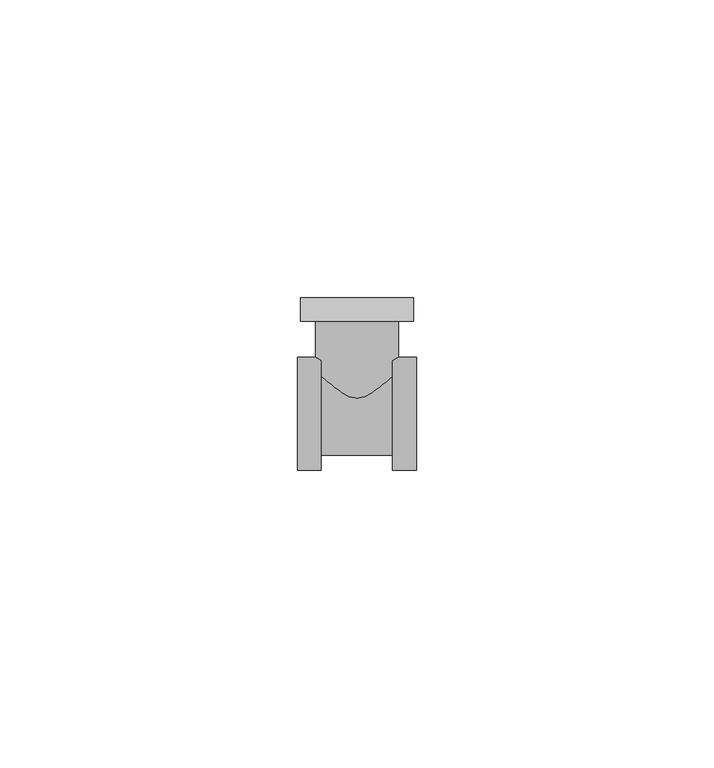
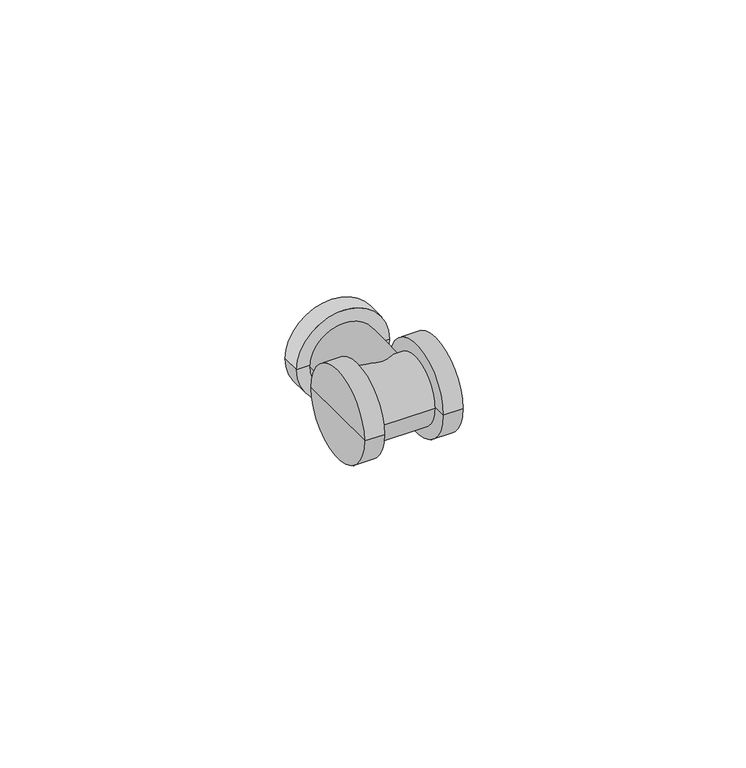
"""IFC4 building model written with IfcOpenShell, lengths in millimetres: pipe fitting geometry, KAN-therm Push trójnik mosiężny : KAN-therm Push trójnik mosiężny."""

from ifc_helpers import new_model, si_unit, frame, origin, place, context, project, spatial, circle_curve, source, transform, mapped, element, save
from ifc_brep_helpers import plane_surface, cylinder_surface, advanced_brep


def pipe_fitting_f02bf57f(model_context):
    return source(origin(), model_context, "Body", "AdvancedBrep", [
        advanced_brep(
        [(0.0, 15.5, 0.0), (-9.5, 15.5, 0.0), (9.5, 15.5, 0.0), (9.5, 19.5, 0.0), (-9.5, 19.5, 0.0), (0.0, 19.5, 0.0)],
        [
            (0, 1),
            (1, 2, circle_curve(frame((0.0, 15.5, 0.0), z_axis=(0.0, -1.0, 0.0), x_axis=(-1.0, 0.0, 0.0)), 9.5)),
            (2, 0),
            (2, 1, circle_curve(frame((0.0, 15.5, 0.0), z_axis=(0.0, -1.0, 0.0), x_axis=(-1.0, 0.0, 0.0)), 9.5)),
            (3, 4, circle_curve(frame((0.0, 19.5, 0.0), z_axis=(0.0, 1.0, 0.0), x_axis=(-1.0, 0.0, 0.0)), 9.5)),
            (4, 5),
            (5, 3),
            (4, 3, circle_curve(frame((0.0, 19.5, 0.0), z_axis=(0.0, 1.0, 0.0), x_axis=(-1.0, 0.0, 0.0)), 9.5)),
            (1, 4),
            (3, 2),
        ],
        [
            plane_surface(frame((0.0, 15.5, 0.0), z_axis=(0.0, -1.0, 0.0), x_axis=(-1.0, 0.0, 0.0))),
            plane_surface(frame((0.0, 19.5, 0.0), z_axis=(0.0, 1.0, 0.0), x_axis=(-1.0, 0.0, 0.0))),
            cylinder_surface(frame((0.0, 2000.0, 0.0), z_axis=(0.0, -1.0, 0.0), x_axis=(-1.0, 0.0, 0.0)), 9.5),
        ],
        [
            (0, [[1, 2, 3]]),
            (0, [[-3, 4, -1]]),
            (1, [[5, 6, 7]]),
            (1, [[8, -7, -6]]),
            (2, [[-2, 9, -5, 10]]),
            (2, [[-4, -10, -8, -9]]),
        ],
    ),
        advanced_brep(
        [(6.0, 0.0, 0.0), (6.0, 9.5, 0.0), (6.0, -9.5, 0.0), (10.0, -9.5, 0.0), (10.0, 9.5, 0.0), (10.0, 0.0, 0.0)],
        [
            (0, 1),
            (1, 2, circle_curve(frame((6.0, 0.0, 0.0), z_axis=(-1.0, 0.0, 0.0), x_axis=(0.0, 1.0, 0.0)), 9.5)),
            (2, 0),
            (2, 1, circle_curve(frame((6.0, 0.0, 0.0), z_axis=(-1.0, 0.0, 0.0), x_axis=(0.0, 1.0, 0.0)), 9.5)),
            (3, 4, circle_curve(frame((10.0, 0.0, 0.0), z_axis=(1.0, 0.0, 0.0), x_axis=(0.0, 1.0, 0.0)), 9.5)),
            (4, 5),
            (5, 3),
            (4, 3, circle_curve(frame((10.0, 0.0, 0.0), z_axis=(1.0, 0.0, 0.0), x_axis=(0.0, 1.0, 0.0)), 9.5)),
            (1, 4),
            (3, 2),
        ],
        [
            plane_surface(frame((6.0, 0.0, 0.0), z_axis=(-1.0, 0.0, 0.0), x_axis=(0.0, 1.0, 0.0))),
            plane_surface(frame((10.0, 0.0, 0.0), z_axis=(1.0, 0.0, 0.0), x_axis=(0.0, 1.0, 0.0))),
            cylinder_surface(frame((2000.0, 0.0, 0.0), z_axis=(-1.0, 0.0, 0.0), x_axis=(0.0, 1.0, 0.0)), 9.5),
        ],
        [
            (0, [[1, 2, 3]]),
            (0, [[-3, 4, -1]]),
            (1, [[5, 6, 7]]),
            (1, [[8, -7, -6]]),
            (2, [[-2, 9, -5, 10]]),
            (2, [[-4, -10, -8, -9]]),
        ],
    ),
        advanced_brep(
        [(-10.0, -9.5, 0.0), (-10.0, 9.5, 0.0), (-6.0, 9.5, 0.0), (-6.0, -9.5, 0.0), (-10.0, 0.0, 0.0), (-6.0, 0.0, 0.0)],
        [
            (0, 1, circle_curve(frame((-10.0, 0.0, 0.0), z_axis=(1.0, 0.0, 0.0), x_axis=(0.0, 1.0, 0.0)), 9.5)),
            (1, 2),
            (2, 3, circle_curve(frame((-6.0, 0.0, 0.0), z_axis=(-1.0, 0.0, 0.0), x_axis=(0.0, 1.0, 0.0)), 9.5)),
            (3, 0),
            (1, 0, circle_curve(frame((-10.0, 0.0, 0.0), z_axis=(1.0, 0.0, 0.0), x_axis=(0.0, 1.0, 0.0)), 9.5)),
            (3, 2, circle_curve(frame((-6.0, 0.0, 0.0), z_axis=(-1.0, 0.0, 0.0), x_axis=(0.0, 1.0, 0.0)), 9.5)),
            (4, 1),
            (0, 4),
            (2, 5),
            (5, 3),
        ],
        [
            cylinder_surface(frame((2000.0, 0.0, 0.0), z_axis=(-1.0, 0.0, 0.0), x_axis=(0.0, 1.0, 0.0)), 9.5),
            plane_surface(frame((-10.0, 0.0, 0.0), z_axis=(-1.0, 0.0, 0.0), x_axis=(0.0, 1.0, 0.0))),
            plane_surface(frame((-6.0, 0.0, 0.0), z_axis=(1.0, 0.0, 0.0), x_axis=(0.0, 1.0, 0.0))),
        ],
        [
            (0, [[1, 2, 3, 4]]),
            (0, [[5, -4, 6, -2]]),
            (1, [[7, -1, 8]]),
            (1, [[-8, -5, -7]]),
            (2, [[-3, 9, 10]]),
            (2, [[-6, -10, -9]]),
        ],
    ),
        advanced_brep(
        [(10.0, -7.0, 0.0), (10.0, 7.0, 0.0), (10.0, 0.0, 0.0), (-10.0, -7.0, 0.0), (-10.0, 7.0, 0.0), (-10.0, 0.0, 0.0)],
        [
            (0, 1, circle_curve(frame((10.0, 0.0, 0.0), z_axis=(1.0, 0.0, 0.0), x_axis=(0.0, 1.0, 0.0)), 7.0)),
            (1, 2),
            (2, 0),
            (1, 0, circle_curve(frame((10.0, 0.0, 0.0), z_axis=(1.0, 0.0, 0.0), x_axis=(0.0, 1.0, 0.0)), 7.0)),
            (3, 4, circle_curve(frame((-10.0, 0.0, 0.0), z_axis=(1.0, 0.0, 0.0), x_axis=(0.0, 1.0, 0.0)), 7.0)),
            (4, 1),
            (0, 3),
            (4, 3, circle_curve(frame((-10.0, 0.0, 0.0), z_axis=(1.0, 0.0, 0.0), x_axis=(0.0, 1.0, 0.0)), 7.0)),
            (5, 4),
            (3, 5),
        ],
        [
            plane_surface(frame((10.0, 0.0, 0.0), z_axis=(1.0, 0.0, 0.0), x_axis=(0.0, 1.0, 0.0))),
            cylinder_surface(frame((1997.5, 0.0, 0.0), z_axis=(-1.0, 0.0, 0.0), x_axis=(0.0, 1.0, 0.0)), 7.0),
            plane_surface(frame((-10.0, 0.0, 0.0), z_axis=(-1.0, 0.0, 0.0), x_axis=(0.0, 1.0, 0.0))),
        ],
        [
            (0, [[1, 2, 3]]),
            (0, [[4, -3, -2]]),
            (1, [[5, 6, -1, 7]]),
            (1, [[8, -7, -4, -6]]),
            (2, [[9, -5, 10]]),
            (2, [[-10, -8, -9]]),
        ],
    ),
        advanced_brep(
        [(-7.0, 0.0, 0.0), (7.0, 0.0, 0.0), (0.0, 0.0, 0.0), (-7.0, 19.5, 0.0), (7.0, 19.5, 0.0), (0.0, 19.5, 0.0)],
        [
            (0, 1, circle_curve(frame((0.0, 0.0, 0.0), z_axis=(0.0, -1.0, 0.0), x_axis=(1.0, 0.0, 0.0)), 7.0)),
            (1, 2),
            (2, 0),
            (1, 0, circle_curve(frame((0.0, 0.0, 0.0), z_axis=(0.0, -1.0, 0.0), x_axis=(1.0, 0.0, 0.0)), 7.0)),
            (3, 4, circle_curve(frame((0.0, 19.5, 0.0), z_axis=(0.0, -1.0, 0.0), x_axis=(1.0, 0.0, 0.0)), 7.0)),
            (4, 1),
            (0, 3),
            (4, 3, circle_curve(frame((0.0, 19.5, 0.0), z_axis=(0.0, -1.0, 0.0), x_axis=(1.0, 0.0, 0.0)), 7.0)),
            (5, 4),
            (3, 5),
        ],
        [
            plane_surface(frame((0.0, 0.0, 0.0), z_axis=(0.0, -1.0, 0.0), x_axis=(1.0, 0.0, 0.0))),
            cylinder_surface(frame((0.0, 2001.5, 0.0), z_axis=(0.0, 1.0, 0.0), x_axis=(1.0, 0.0, 0.0)), 7.0),
            plane_surface(frame((0.0, 19.5, 0.0), z_axis=(0.0, 1.0, 0.0), x_axis=(1.0, 0.0, 0.0))),
        ],
        [
            (0, [[1, 2, 3]]),
            (0, [[4, -3, -2]]),
            (1, [[5, 6, -1, 7]]),
            (1, [[8, -7, -4, -6]]),
            (2, [[9, -5, 10]]),
            (2, [[-10, -8, -9]]),
        ],
    ),
    ])


if __name__ == "__main__":
    model = new_model("IFC4")
    model_context = context("Model", 3, world=origin())
    ifc_project = project(units=[si_unit("LENGTHUNIT", "METRE", prefix="MILLI")], contexts=[model_context])
    site = spatial("IfcSite", under=ifc_project)
    building = spatial("IfcBuilding", under=site)
    placement = place(None, origin())
    pipe_fitting_shape = pipe_fitting_f02bf57f(model_context)
    element("IfcPipeFitting", 1, ObjectType="KAN-therm Push trójnik mosiężny : KAN-therm Push trójnik mosiężny", at=placement, inside=building, context=model_context, shape_type="MappedRepresentation", body=[
        mapped(pipe_fitting_shape, transform((0.0, 0.0, 0.0), x_axis=(1.0, 0.0, 0.0), y_axis=(0.0, 1.0, 0.0), z_axis=(0.0, 0.0, 1.0))),
    ])
    save(model, "model.ifc")
